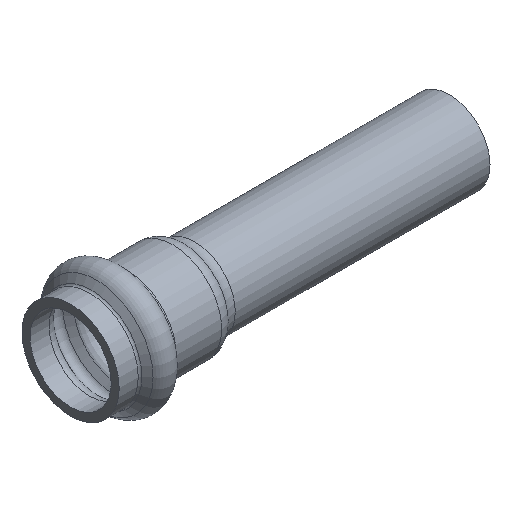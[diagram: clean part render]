
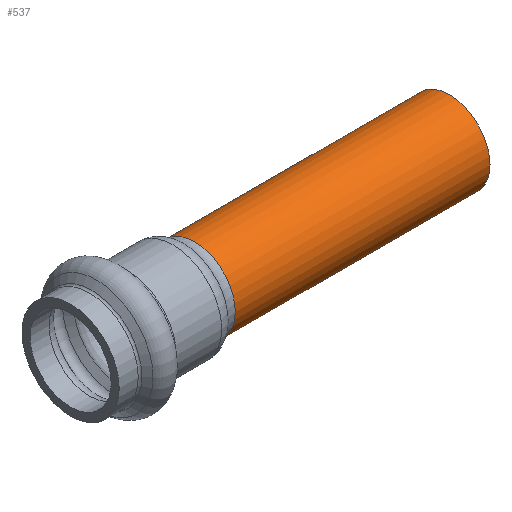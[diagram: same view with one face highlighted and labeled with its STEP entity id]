
A CAD part, isometric view. The second image highlights one B-rep face of the part: STEP entity #537.
In plain terms, the highlighted cylindrical face has radius 10.668 mm (diameter 21.336 mm), a full revolution.
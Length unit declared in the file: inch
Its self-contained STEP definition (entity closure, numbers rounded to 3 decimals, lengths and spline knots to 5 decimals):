
#50=CYLINDRICAL_SURFACE('',#610,0.42);
#58=LINE('',#972,#68);
#68=VECTOR('',#765,0.42);
#87=FACE_OUTER_BOUND('',#109,.T.);
#109=EDGE_LOOP('',(#397,#398,#399,#400,#401,#402,#403));
#153=CIRCLE('',#607,0.42);
#154=CIRCLE('',#608,0.42);
#155=CIRCLE('',#609,0.42);
#156=CIRCLE('',#611,0.42);
#157=CIRCLE('',#612,0.42);
#218=VERTEX_POINT('',#960);
#219=VERTEX_POINT('',#962);
#220=VERTEX_POINT('',#964);
#221=VERTEX_POINT('',#968);
#222=VERTEX_POINT('',#969);
#286=EDGE_CURVE('',#219,#218,#153,.T.);
#287=EDGE_CURVE('',#220,#219,#154,.T.);
#288=EDGE_CURVE('',#218,#220,#155,.T.);
#289=EDGE_CURVE('',#221,#222,#156,.T.);
#290=EDGE_CURVE('',#222,#221,#157,.T.);
#291=EDGE_CURVE('',#222,#220,#58,.T.);
#397=ORIENTED_EDGE('',*,*,#289,.F.);
#398=ORIENTED_EDGE('',*,*,#290,.F.);
#399=ORIENTED_EDGE('',*,*,#291,.T.);
#400=ORIENTED_EDGE('',*,*,#287,.T.);
#401=ORIENTED_EDGE('',*,*,#286,.T.);
#402=ORIENTED_EDGE('',*,*,#288,.T.);
#403=ORIENTED_EDGE('',*,*,#291,.F.);
#537=ADVANCED_FACE('',(#87),#50,.T.);
#607=AXIS2_PLACEMENT_3D('',#963,#753,#754);
#608=AXIS2_PLACEMENT_3D('',#965,#755,#756);
#609=AXIS2_PLACEMENT_3D('',#966,#757,#758);
#610=AXIS2_PLACEMENT_3D('',#967,#759,#760);
#611=AXIS2_PLACEMENT_3D('',#970,#761,#762);
#612=AXIS2_PLACEMENT_3D('',#971,#763,#764);
#753=DIRECTION('center_axis',(1.,0.,0.));
#754=DIRECTION('ref_axis',(0.,1.,0.));
#755=DIRECTION('center_axis',(1.,0.,0.));
#756=DIRECTION('ref_axis',(0.,1.,0.));
#757=DIRECTION('center_axis',(1.,0.,0.));
#758=DIRECTION('ref_axis',(0.,1.,0.));
#759=DIRECTION('center_axis',(1.,0.,0.));
#760=DIRECTION('ref_axis',(0.,1.,0.));
#761=DIRECTION('center_axis',(1.,0.,0.));
#762=DIRECTION('ref_axis',(0.,1.,0.));
#763=DIRECTION('center_axis',(1.,0.,0.));
#764=DIRECTION('ref_axis',(0.,1.,0.));
#765=DIRECTION('',(-1.,0.,0.));
#960=CARTESIAN_POINT('',(-0.67628,0.,0.42));
#962=CARTESIAN_POINT('',(-0.67628,0.42,0.));
#963=CARTESIAN_POINT('Origin',(-0.67628,0.,
0.));
#964=CARTESIAN_POINT('',(-0.67628,-0.42,0.));
#965=CARTESIAN_POINT('Origin',(-0.67628,0.,
0.));
#966=CARTESIAN_POINT('Origin',(-0.67628,0.,
0.));
#967=CARTESIAN_POINT('Origin',(0.64186,0.,
0.));
#968=CARTESIAN_POINT('',(1.96,0.42,0.));
#969=CARTESIAN_POINT('',(1.96,-0.42,0.));
#970=CARTESIAN_POINT('Origin',(1.96,0.,0.));
#971=CARTESIAN_POINT('Origin',(1.96,0.,0.));
#972=CARTESIAN_POINT('',(0.64186,-0.42,0.));
